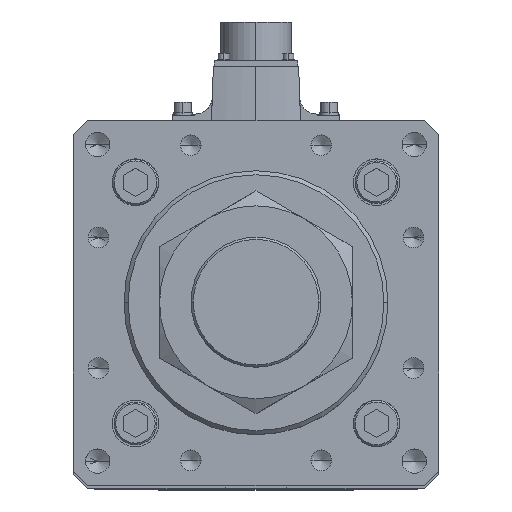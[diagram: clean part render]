
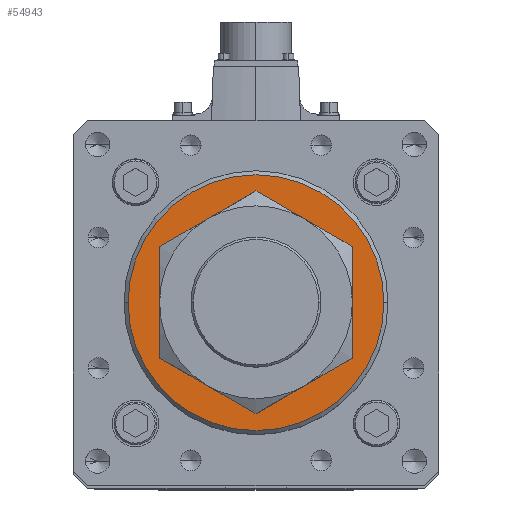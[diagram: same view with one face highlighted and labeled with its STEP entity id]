
A CAD part, top view. The second image highlights one B-rep face of the part: STEP entity #54943.
In plain terms, the highlighted planar face has unit normal (0, 0, 1).
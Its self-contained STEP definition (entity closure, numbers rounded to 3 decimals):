
#1884 = CARTESIAN_POINT ( 'NONE',  ( 0., 0., 862. ) ) ;
#2845 = AXIS2_PLACEMENT_3D ( 'NONE', #38548, #25521, #17273 ) ;
#3735 = CARTESIAN_POINT ( 'NONE',  ( 0., 0., 862. ) ) ;
#4153 = FACE_BOUND ( 'NONE', #24800, .T. ) ;
#5346 = DIRECTION ( 'NONE',  ( 0., 0., 1. ) ) ;
#7223 = CIRCLE ( 'NONE', #46993, 63. ) ;
#8827 = CARTESIAN_POINT ( 'NONE',  ( 0., 0., 862. ) ) ;
#9127 = CARTESIAN_POINT ( 'NONE',  ( -40.5, 0., 862. ) ) ;
#9459 = ORIENTED_EDGE ( 'NONE', *, *, #14527, .T. ) ;
#12419 = DIRECTION ( 'NONE',  ( 0., 0., -1. ) ) ;
#14527 = EDGE_CURVE ( 'NONE', #16007, #22545, #7223, .T. ) ;
#14787 = ORIENTED_EDGE ( 'NONE', *, *, #26928, .T. ) ;
#15257 = CARTESIAN_POINT ( 'NONE',  ( 40.5, 0., 862. ) ) ;
#16007 = VERTEX_POINT ( 'NONE', #34875 ) ;
#17273 = DIRECTION ( 'NONE',  ( 1., 0., 0. ) ) ;
#19441 = DIRECTION ( 'NONE',  ( 1., 0., 0. ) ) ;
#19680 = VERTEX_POINT ( 'NONE', #15257 ) ;
#20207 = EDGE_CURVE ( 'NONE', #22545, #16007, #52192, .T. ) ;
#20262 = ORIENTED_EDGE ( 'NONE', *, *, #27444, .T. ) ;
#20587 = CIRCLE ( 'NONE', #2845, 40.5 ) ;
#21087 = AXIS2_PLACEMENT_3D ( 'NONE', #8827, #12419, #38139 ) ;
#22545 = VERTEX_POINT ( 'NONE', #34499 ) ;
#22551 = AXIS2_PLACEMENT_3D ( 'NONE', #3735, #33617, #37537 ) ;
#23841 = VERTEX_POINT ( 'NONE', #9127 ) ;
#24092 = ORIENTED_EDGE ( 'NONE', *, *, #20207, .T. ) ;
#24134 = EDGE_LOOP ( 'NONE', ( #24092, #9459 ) ) ;
#24800 = EDGE_LOOP ( 'NONE', ( #20262, #14787 ) ) ;
#25521 = DIRECTION ( 'NONE',  ( 0., 0., -1. ) ) ;
#26928 = EDGE_CURVE ( 'NONE', #23841, #19680, #20587, .T. ) ;
#27444 = EDGE_CURVE ( 'NONE', #19680, #23841, #31264, .T. ) ;
#31264 = CIRCLE ( 'NONE', #21087, 40.5 ) ;
#32160 = DIRECTION ( 'NONE',  ( 0., 0., 1. ) ) ;
#33617 = DIRECTION ( 'NONE',  ( 0., 0., 1. ) ) ;
#34499 = CARTESIAN_POINT ( 'NONE',  ( -63., 0., 862. ) ) ;
#34696 = CARTESIAN_POINT ( 'NONE',  ( 0., 0., 862. ) ) ;
#34875 = CARTESIAN_POINT ( 'NONE',  ( 63., 0., 862. ) ) ;
#35431 = DIRECTION ( 'NONE',  ( 1., 0., 0. ) ) ;
#37537 = DIRECTION ( 'NONE',  ( 1., 0., 0. ) ) ;
#38139 = DIRECTION ( 'NONE',  ( 1., 0., 0. ) ) ;
#38548 = CARTESIAN_POINT ( 'NONE',  ( 0., 0., 862. ) ) ;
#45165 = PLANE ( 'NONE',  #52767 ) ;
#46993 = AXIS2_PLACEMENT_3D ( 'NONE', #34696, #5346, #35431 ) ;
#48201 = FACE_OUTER_BOUND ( 'NONE', #24134, .T. ) ;
#52192 = CIRCLE ( 'NONE', #22551, 63. ) ;
#52767 = AXIS2_PLACEMENT_3D ( 'NONE', #1884, #32160, #19441 ) ;
#54943 = ADVANCED_FACE ( 'NONE', ( #4153, #48201 ), #45165, .T. ) ;
